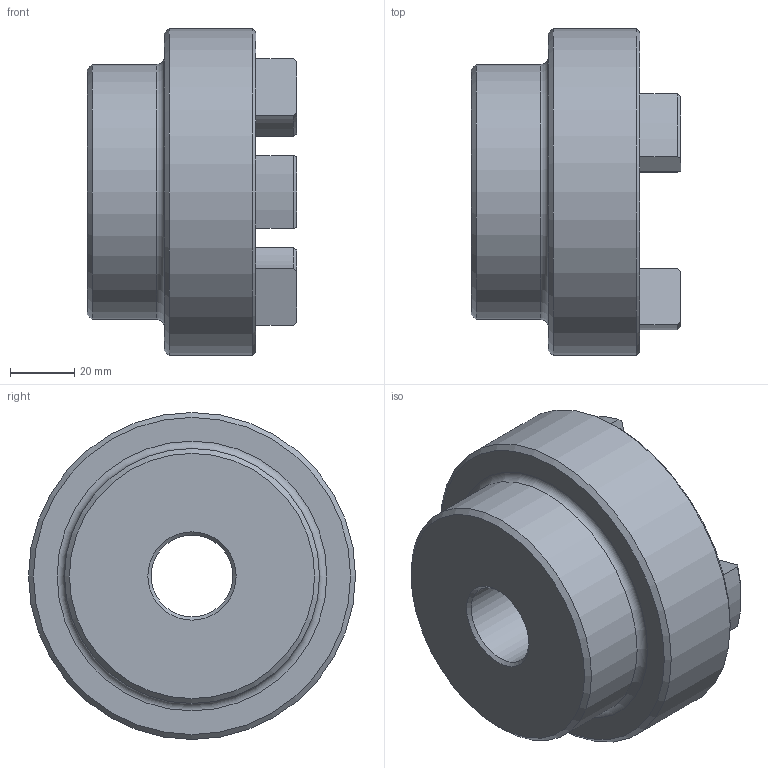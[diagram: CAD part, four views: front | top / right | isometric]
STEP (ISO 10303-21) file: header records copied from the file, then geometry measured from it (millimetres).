
FILE_DESCRIPTION (( 'STEP AP203' ), '1' );
FILE_NAME ('RC4.step', '2024-07-24T17:34:53', ( 'Adlan' ), ( '' ), 'SwSTEP 2.0', 'SolidWorks 2013', '' );
FILE_SCHEMA (( 'CONFIG_CONTROL_DESIGN' ));
Length unit declared in the file: inch
Products named in the file (1): RC4
Bounding box: 65.02 x 101.6 x 101.6 mm (x, y, z)
Volume: 261601.7 mm3; surface area: 40256.9 mm2
Topology: 1 solids, 1 shells, 60 faces, 146 edges, 90 vertices
Faces by surface type: cylinder 24, plane 13, torus 13, cone 10
Full cylindrical faces by diameter (mm): 25.408 x1, 79.248 x1, 101.6 x1
Entity records: 1841 total; most frequent: CARTESIAN_POINT 341, DIRECTION 324, ORIENTED_EDGE 274, EDGE_CURVE 137, AXIS2_PLACEMENT_3D 132, VERTEX_POINT 89, EDGE_LOOP 72, CIRCLE 71
